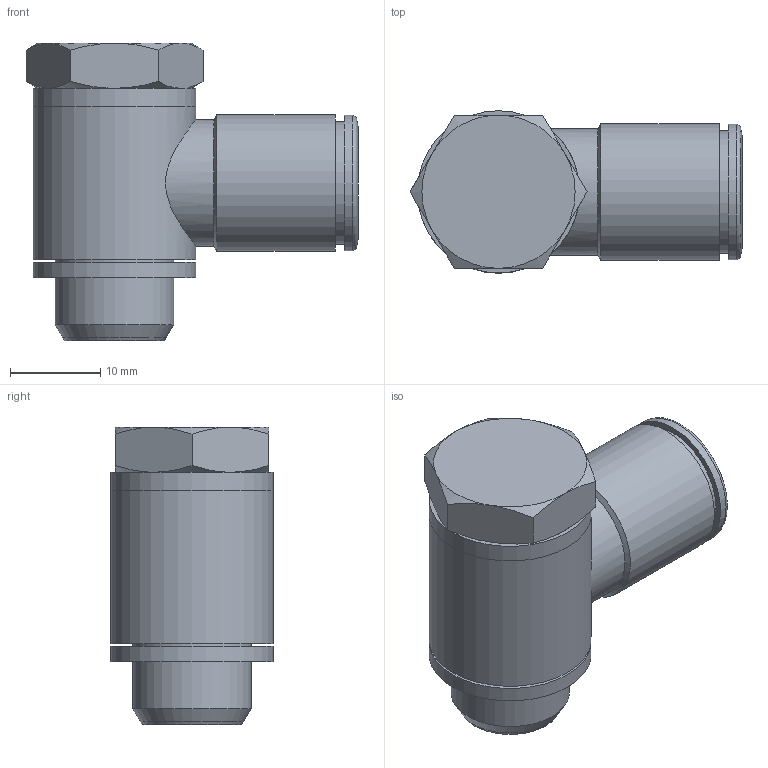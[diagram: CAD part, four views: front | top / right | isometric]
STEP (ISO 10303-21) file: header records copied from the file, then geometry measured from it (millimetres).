
FILE_DESCRIPTION(('Bauteilbeschreibung','HiCAD-Model','HiCAD-STEP-TRANSLATION','Bauteilbeschreibung'),'2;1');
FILE_NAME('B:/ABGLEICH/ZEICHNUNGEN/STEP FÜR INTERNET/STEP/S11210_IPSO_017_10_1-4.STP','2011-08-30T13:36:22+00:00',('Konstrukteur'),('Konstrukteur Firma GmbH'),' HiCAD neXt 2008, Step 3.1.1401.2J ','HiCAD neXt 2008','confidential');
FILE_SCHEMA(('AUTOMOTIVE_DESIGN { 1 2 10303 214 0 1 1 1 }'));
Length unit declared in the file: millimetre
Products named in the file (8): S11210_IPSO_017_10_1_4; A00033; A4403; A44030; G 1_4; A00043_DTG__1_4_UNV ; DR10_N; R201210_N
Assembly tree (7 placements, depth 3):
  S11210_IPSO_017_10_1_4
    A00033
    A4403
    A44030
      G 1_4
    A00043_DTG__1_4_UNV 
    DR10_N
    R201210_N
Bounding box: 36.81 x 18 x 33 mm (x, y, z)
Volume: 6897.5 mm3; surface area: 8285.1 mm2
Topology: 6 solids, 6 shells, 99 faces, 218 edges, 136 vertices
Faces by surface type: cone 34, plane 32, cylinder 32, torus 1
Full cylindrical faces by diameter (mm): 5 x2, 6.8 x1, 9 x1, 10.2 x2, 11 x1, 11.445 x2, 12.3 x1, 12.8 x1, 13 x1, 13.157 x1, 13.3 x2, 13.4 x1, 13.5 x1, 13.6 x1, 13.7 x1, 14 x2, 15 x1, 15.1 x1, 18 x3
Entity records: 6384 total; most frequent: CARTESIAN_POINT 3629, DIRECTION 432, ORIENTED_EDGE 292, AXIS2_PLACEMENT_3D 207, EDGE_LOOP 172, EDGE_CURVE 146, COLOUR_RGB 142, PRESENTATION_STYLE_ASSIGNMENT 142
